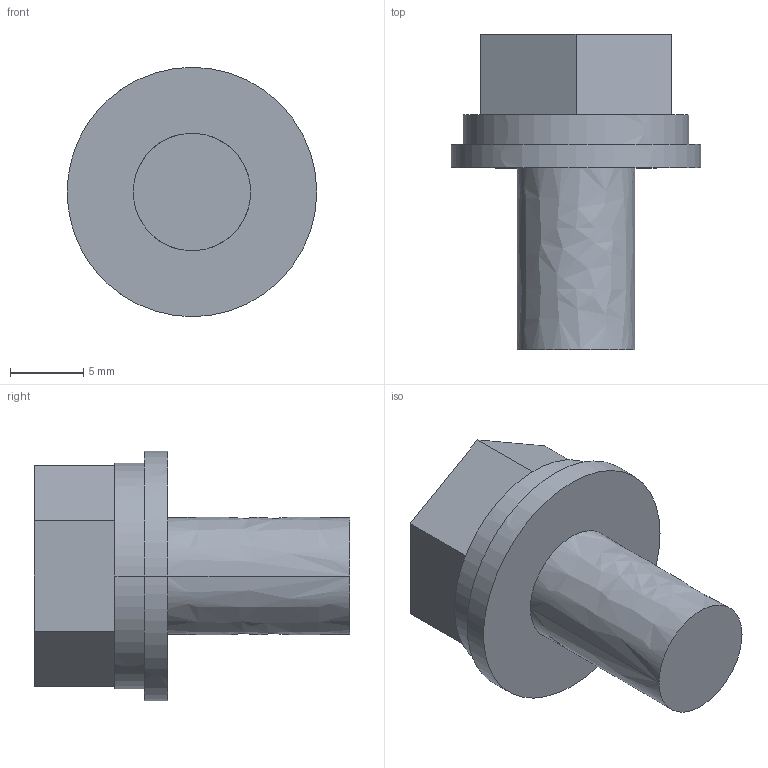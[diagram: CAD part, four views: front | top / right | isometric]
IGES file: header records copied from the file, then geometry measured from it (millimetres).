
Start section:  PTC IGES file: sw-pw-p-up-m8x16.igs
Global section: file name: sw-pw-p-up-m8x16.igs; native system: Pro/ENGINEER by Parametric Technology Corporation; preprocessor: 2006420; author: JE18792; organization: Unknown; date: 20101129.152518; units: millimetre
Bounding box: 17 x 21.5 x 17 mm (x, y, z)
Volume: 2164 mm3; surface area: 1195.5 mm2
Topology: 1 solids, 1 shells, 17 faces, 36 edges, 24 vertices
Faces by surface type: bspline 17
